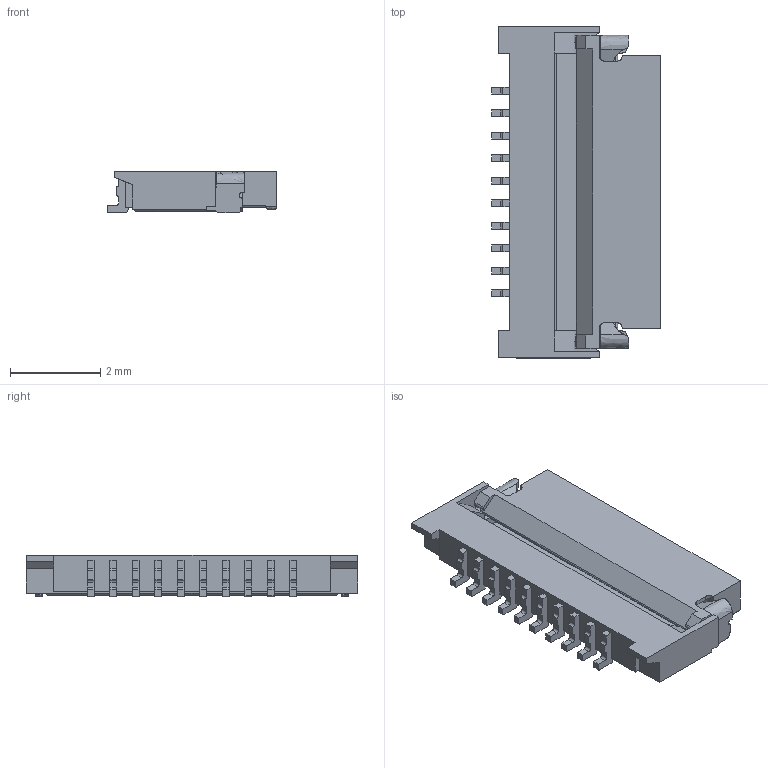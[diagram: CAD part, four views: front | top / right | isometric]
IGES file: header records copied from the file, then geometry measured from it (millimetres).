
Start section: SolidWorks IGES file using analytic representation for surfaces
Bounding box: 3.75 x 7.37 x 0.93 mm (x, y, z)
Surface area: 100.7 mm2 (no closed solid volume)
Topology: 0 solids, 0 shells, 391 faces, 2703 edges, 2678 vertices
Faces by surface type: bspline 276, revolution 115
